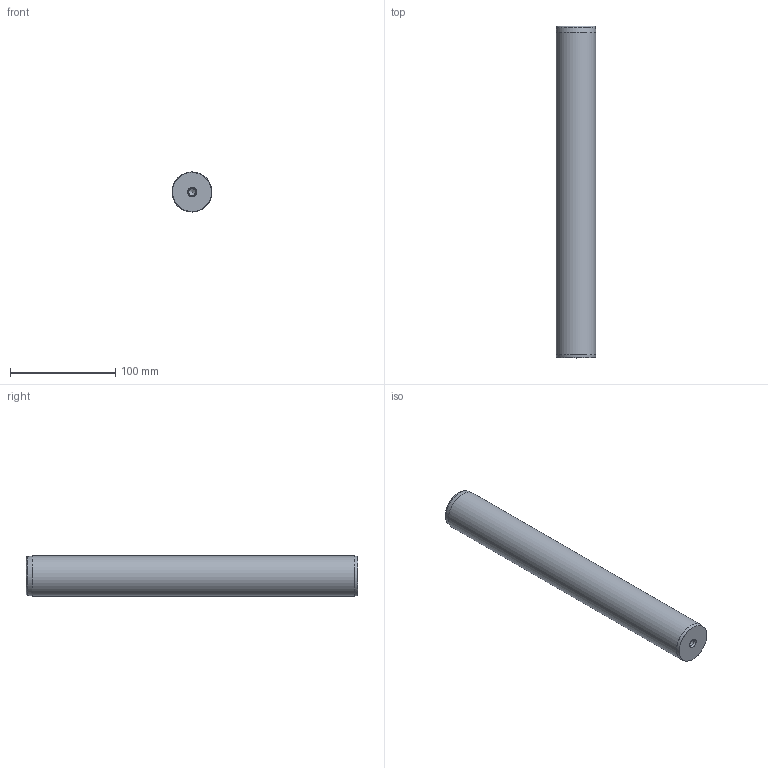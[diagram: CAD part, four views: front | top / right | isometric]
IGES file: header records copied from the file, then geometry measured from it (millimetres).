
Start section: Missler Software BP 521, 31674 Labege Cedex, France Tel   : +33 (0)5 61 00 03 00 Fax   : +33 (0)5 61 00 03 03 Email : sup.topsolid@topsolid.com
Global section: file name: D:\Cuma\D14-2\D14_38315.igs; native system: TopSolid v605250 Missler Software; preprocessor: IGES preprocessor v100000; date: 030120.194250; units: millimetre
Bounding box: 37.94 x 315 x 38 mm (x, y, z)
Surface area: 40817.8 mm2 (no closed solid volume)
Topology: 0 solids, 0 shells, 14 faces, 145 edges, 136 vertices
Faces by surface type: bspline 14
